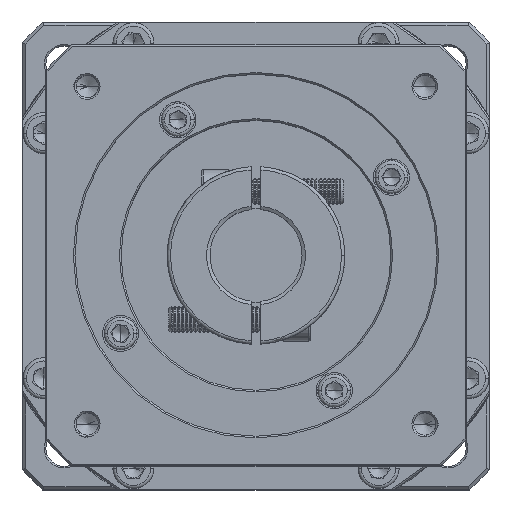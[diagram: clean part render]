
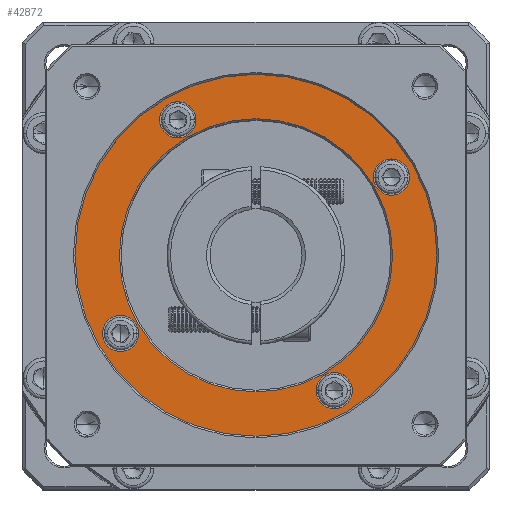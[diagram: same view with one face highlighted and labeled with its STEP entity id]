
A CAD part, top view. The second image highlights one B-rep face of the part: STEP entity #42872.
In plain terms, the highlighted planar face has unit normal (0, 0, 1).
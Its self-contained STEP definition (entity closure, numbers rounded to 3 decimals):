
#939 = EDGE_CURVE ( 'NONE', #105730, #138288, #948, .T. ) ;
#948 = CIRCLE ( 'NONE', #32961, 5.5 ) ;
#1441 = EDGE_CURVE ( 'NONE', #42961, #102955, #29977, .T. ) ;
#2032 = VERTEX_POINT ( 'NONE', #150447 ) ;
#3822 = AXIS2_PLACEMENT_3D ( 'NONE', #21247, #102923, #32927 ) ;
#5166 = DIRECTION ( 'NONE',  ( 0., 0., 1. ) ) ;
#5217 = CARTESIAN_POINT ( 'NONE',  ( -113.826, 61.167, 11.263 ) ) ;
#6292 = EDGE_LOOP ( 'NONE', ( #17981, #86164 ) ) ;
#9224 = DIRECTION ( 'NONE',  ( 0., 0., -1. ) ) ;
#10435 = CIRCLE ( 'NONE', #12352, 5.5 ) ;
#11347 = ORIENTED_EDGE ( 'NONE', *, *, #118967, .T. ) ;
#11944 = VERTEX_POINT ( 'NONE', #63790 ) ;
#12352 = AXIS2_PLACEMENT_3D ( 'NONE', #82891, #13063, #128405 ) ;
#12745 = CIRCLE ( 'NONE', #81668, 55. ) ;
#13063 = DIRECTION ( 'NONE',  ( 0., 0., -1. ) ) ;
#13961 = EDGE_LOOP ( 'NONE', ( #106814, #11347 ) ) ;
#13995 = VERTEX_POINT ( 'NONE', #63621 ) ;
#14152 = DIRECTION ( 'NONE',  ( 0., 0., -1. ) ) ;
#14318 = AXIS2_PLACEMENT_3D ( 'NONE', #45493, #21565, #138472 ) ;
#17981 = ORIENTED_EDGE ( 'NONE', *, *, #107073, .T. ) ;
#18109 = CIRCLE ( 'NONE', #77495, 5.5 ) ;
#18823 = CIRCLE ( 'NONE', #35954, 5.5 ) ;
#20644 = DIRECTION ( 'NONE',  ( 0., 0., 1. ) ) ;
#21247 = CARTESIAN_POINT ( 'NONE',  ( -54.44, 43.78, 11.263 ) ) ;
#21318 = VERTEX_POINT ( 'NONE', #5217 ) ;
#21565 = DIRECTION ( 'NONE',  ( 0., 0., -1. ) ) ;
#22024 = CIRCLE ( 'NONE', #130164, 5.5 ) ;
#23210 = FACE_BOUND ( 'NONE', #40045, .T. ) ;
#23788 = DIRECTION ( 'NONE',  ( 0., 0., -1. ) ) ;
#29834 = DIRECTION ( 'NONE',  ( 0., 0., -1. ) ) ;
#29977 = CIRCLE ( 'NONE', #3822, 5.5 ) ;
#31945 = CIRCLE ( 'NONE', #75152, 41.5 ) ;
#32927 = DIRECTION ( 'NONE',  ( 1., 0., 0. ) ) ;
#32961 = AXIS2_PLACEMENT_3D ( 'NONE', #43825, #9224, #100079 ) ;
#34461 = CIRCLE ( 'NONE', #149019, 55. ) ;
#35954 = AXIS2_PLACEMENT_3D ( 'NONE', #41129, #133146, #40152 ) ;
#36166 = EDGE_CURVE ( 'NONE', #2032, #21318, #10435, .T. ) ;
#37378 = AXIS2_PLACEMENT_3D ( 'NONE', #128507, #57471, #139756 ) ;
#37576 = DIRECTION ( 'NONE',  ( 1., 0., 0. ) ) ;
#38763 = DIRECTION ( 'NONE',  ( 1., 0., 0. ) ) ;
#39691 = ORIENTED_EDGE ( 'NONE', *, *, #83809, .T. ) ;
#40045 = EDGE_LOOP ( 'NONE', ( #122510, #87263 ) ) ;
#40152 = DIRECTION ( 'NONE',  ( 1., 0., 0. ) ) ;
#41129 = CARTESIAN_POINT ( 'NONE',  ( -37.054, 108.667, 11.263 ) ) ;
#42872 = ADVANCED_FACE ( 'NONE', ( #132828, #140137, #54190, #105409, #23210, #70585 ), #55266, .T. ) ;
#42961 = VERTEX_POINT ( 'NONE', #129840 ) ;
#43825 = CARTESIAN_POINT ( 'NONE',  ( -101.94, 126.053, 11.263 ) ) ;
#45493 = CARTESIAN_POINT ( 'NONE',  ( -78.19, 84.917, 11.263 ) ) ;
#48928 = VERTEX_POINT ( 'NONE', #147861 ) ;
#51437 = EDGE_CURVE ( 'NONE', #21318, #2032, #113140, .T. ) ;
#51535 = VERTEX_POINT ( 'NONE', #70714 ) ;
#51553 = EDGE_CURVE ( 'NONE', #13995, #48928, #34461, .T. ) ;
#53291 = CARTESIAN_POINT ( 'NONE',  ( -101.94, 126.053, 11.263 ) ) ;
#54190 = FACE_BOUND ( 'NONE', #13961, .T. ) ;
#55266 = PLANE ( 'NONE',  #95780 ) ;
#57471 = DIRECTION ( 'NONE',  ( 0., 0., -1. ) ) ;
#58197 = ORIENTED_EDGE ( 'NONE', *, *, #78231, .T. ) ;
#61538 = DIRECTION ( 'NONE',  ( 1., 0., 0. ) ) ;
#61961 = ORIENTED_EDGE ( 'NONE', *, *, #1441, .T. ) ;
#63621 = CARTESIAN_POINT ( 'NONE',  ( -133.19, 84.917, 11.263 ) ) ;
#63790 = CARTESIAN_POINT ( 'NONE',  ( -31.554, 108.667, 11.263 ) ) ;
#64345 = EDGE_LOOP ( 'NONE', ( #83100, #129240 ) ) ;
#64562 = DIRECTION ( 'NONE',  ( 1., 0., 0. ) ) ;
#70179 = CARTESIAN_POINT ( 'NONE',  ( -78.19, 84.917, 11.263 ) ) ;
#70585 = FACE_BOUND ( 'NONE', #64345, .T. ) ;
#70714 = CARTESIAN_POINT ( 'NONE',  ( -119.69, 84.917, 11.263 ) ) ;
#71904 = VERTEX_POINT ( 'NONE', #95185 ) ;
#72732 = CARTESIAN_POINT ( 'NONE',  ( -54.44, 43.78, 11.263 ) ) ;
#74664 = DIRECTION ( 'NONE',  ( 1., 0., 0. ) ) ;
#75152 = AXIS2_PLACEMENT_3D ( 'NONE', #70179, #23788, #116224 ) ;
#77495 = AXIS2_PLACEMENT_3D ( 'NONE', #53291, #29834, #64562 ) ;
#78231 = EDGE_CURVE ( 'NONE', #51535, #71904, #31945, .T. ) ;
#78235 = CARTESIAN_POINT ( 'NONE',  ( -37.054, 108.667, 11.263 ) ) ;
#78769 = CARTESIAN_POINT ( 'NONE',  ( -78.19, 84.917, 11.263 ) ) ;
#79494 = EDGE_CURVE ( 'NONE', #102955, #42961, #133702, .T. ) ;
#81668 = AXIS2_PLACEMENT_3D ( 'NONE', #108725, #5166, #38763 ) ;
#82891 = CARTESIAN_POINT ( 'NONE',  ( -119.326, 61.167, 11.263 ) ) ;
#83100 = ORIENTED_EDGE ( 'NONE', *, *, #51437, .T. ) ;
#83809 = EDGE_CURVE ( 'NONE', #71904, #51535, #107360, .T. ) ;
#84715 = CARTESIAN_POINT ( 'NONE',  ( -59.94, 43.78, 11.263 ) ) ;
#85993 = CARTESIAN_POINT ( 'NONE',  ( -78.19, 84.917, 11.263 ) ) ;
#86164 = ORIENTED_EDGE ( 'NONE', *, *, #51553, .T. ) ;
#86351 = EDGE_LOOP ( 'NONE', ( #39691, #58197 ) ) ;
#87263 = ORIENTED_EDGE ( 'NONE', *, *, #939, .T. ) ;
#95185 = CARTESIAN_POINT ( 'NONE',  ( -36.69, 84.917, 11.263 ) ) ;
#95780 = AXIS2_PLACEMENT_3D ( 'NONE', #78769, #20644, #102287 ) ;
#100079 = DIRECTION ( 'NONE',  ( 1., 0., 0. ) ) ;
#102287 = DIRECTION ( 'NONE',  ( 1., 0., 0. ) ) ;
#102923 = DIRECTION ( 'NONE',  ( 0., 0., -1. ) ) ;
#102955 = VERTEX_POINT ( 'NONE', #84715 ) ;
#105409 = FACE_BOUND ( 'NONE', #151462, .T. ) ;
#105730 = VERTEX_POINT ( 'NONE', #123476 ) ;
#105890 = CARTESIAN_POINT ( 'NONE',  ( -96.44, 126.053, 11.263 ) ) ;
#106814 = ORIENTED_EDGE ( 'NONE', *, *, #119684, .T. ) ;
#107073 = EDGE_CURVE ( 'NONE', #48928, #13995, #12745, .T. ) ;
#107360 = CIRCLE ( 'NONE', #14318, 41.5 ) ;
#108725 = CARTESIAN_POINT ( 'NONE',  ( -78.19, 84.917, 11.263 ) ) ;
#109824 = ORIENTED_EDGE ( 'NONE', *, *, #79494, .T. ) ;
#111363 = AXIS2_PLACEMENT_3D ( 'NONE', #72732, #14152, #37576 ) ;
#113140 = CIRCLE ( 'NONE', #37378, 5.5 ) ;
#116224 = DIRECTION ( 'NONE',  ( 1., 0., 0. ) ) ;
#118967 = EDGE_CURVE ( 'NONE', #127022, #11944, #18823, .T. ) ;
#119684 = EDGE_CURVE ( 'NONE', #11944, #127022, #22024, .T. ) ;
#122510 = ORIENTED_EDGE ( 'NONE', *, *, #134200, .T. ) ;
#123476 = CARTESIAN_POINT ( 'NONE',  ( -107.44, 126.053, 11.263 ) ) ;
#127022 = VERTEX_POINT ( 'NONE', #141405 ) ;
#128405 = DIRECTION ( 'NONE',  ( 1., 0., 0. ) ) ;
#128507 = CARTESIAN_POINT ( 'NONE',  ( -119.326, 61.167, 11.263 ) ) ;
#129240 = ORIENTED_EDGE ( 'NONE', *, *, #36166, .T. ) ;
#129840 = CARTESIAN_POINT ( 'NONE',  ( -48.94, 43.78, 11.263 ) ) ;
#130164 = AXIS2_PLACEMENT_3D ( 'NONE', #78235, #144699, #74664 ) ;
#132828 = FACE_OUTER_BOUND ( 'NONE', #6292, .T. ) ;
#133063 = DIRECTION ( 'NONE',  ( 0., 0., 1. ) ) ;
#133146 = DIRECTION ( 'NONE',  ( 0., 0., -1. ) ) ;
#133702 = CIRCLE ( 'NONE', #111363, 5.5 ) ;
#134200 = EDGE_CURVE ( 'NONE', #138288, #105730, #18109, .T. ) ;
#138288 = VERTEX_POINT ( 'NONE', #105890 ) ;
#138472 = DIRECTION ( 'NONE',  ( 1., 0., 0. ) ) ;
#139756 = DIRECTION ( 'NONE',  ( 1., 0., 0. ) ) ;
#140137 = FACE_BOUND ( 'NONE', #86351, .T. ) ;
#141405 = CARTESIAN_POINT ( 'NONE',  ( -42.554, 108.667, 11.263 ) ) ;
#144699 = DIRECTION ( 'NONE',  ( 0., 0., -1. ) ) ;
#147861 = CARTESIAN_POINT ( 'NONE',  ( -23.19, 84.917, 11.263 ) ) ;
#149019 = AXIS2_PLACEMENT_3D ( 'NONE', #85993, #133063, #61538 ) ;
#150447 = CARTESIAN_POINT ( 'NONE',  ( -124.826, 61.167, 11.263 ) ) ;
#151462 = EDGE_LOOP ( 'NONE', ( #61961, #109824 ) ) ;
